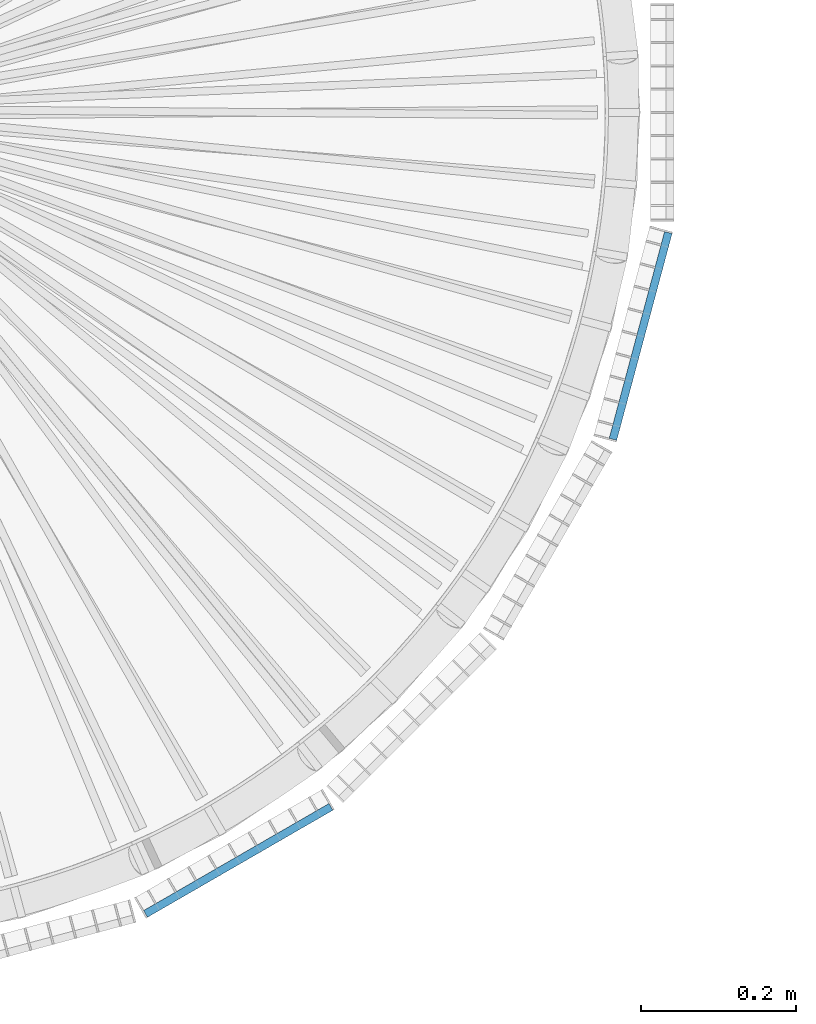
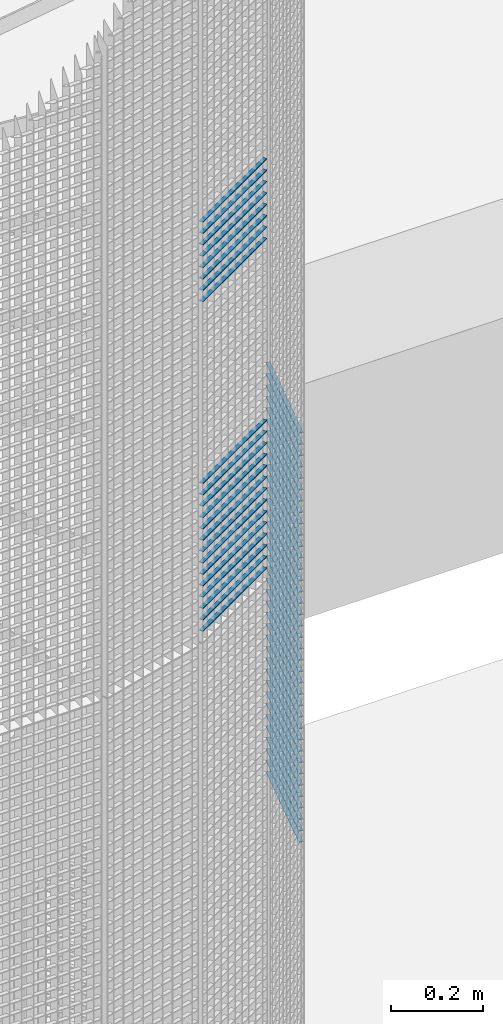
# One storey, part 243 of 1183: 59 beams, 2 elements without a shape of their own.
"""IFC2X3 building model written with IfcOpenShell, lengths in millimetres."""

import ifcopenshell
import ifcopenshell.guid

model = None  # the IFC model being written
_history = None  # IfcOwnerHistory: only IFC2X3 demands one
_inside = {}  # id of a spatial element -> (the spatial element, [elements in it])
_under = {}  # id of a project, library or spatial element -> (it, [spatial elements below it])
_declared = {}  # id of a project -> (the project, [libraries it declares])
_typed = {}  # id of a type object -> (the type object, [elements of that type])
_made_of = {}  # id of a material, layer set ... -> (it, [elements and type objects made of it])


def new_model(schema):
    """Start an empty IFC model of exactly this schema.

    Asked for "IFC4X3", IfcOpenShell would pick the latest addendum, in which some entities
    have other attributes; the version numbers below select the first issue.
    IFC2X3 requires an IfcOwnerHistory on every rooted entity: one is made here for all.
    """
    global model, _history
    if schema == "IFC4X3":
        model = ifcopenshell.file(schema_version=(4, 3, 0, 0))
    else:
        model = ifcopenshell.file(schema=schema)
    _inside.clear()
    _under.clear()
    _declared.clear()
    _typed.clear()
    _made_of.clear()
    _history = None
    if model.schema == "IFC2X3":
        org = make("IfcOrganization", Name="unknown")
        user = make(
            "IfcPersonAndOrganization",
            ThePerson=make("IfcPerson", FamilyName="unknown"),
            TheOrganization=org,
        )
        app = make(
            "IfcApplication",
            ApplicationDeveloper=org,
            Version="unknown",
            ApplicationFullName="unknown",
            ApplicationIdentifier="unknown",
        )
        _history = make(
            "IfcOwnerHistory",
            OwningUser=user,
            OwningApplication=app,
            ChangeAction="ADDED",
            CreationDate=0,
        )
    return model


def make(cls, **values):
    """One entity of the class cls with the attributes given. An attribute that is None is left unset."""
    return model.create_entity(
        cls, **{name: value for name, value in values.items() if value is not None}
    )


def rooted(cls, **values):
    """An entity with a GlobalId (a new one), such as an element, a storey or a relation."""
    return make(cls, GlobalId=ifcopenshell.guid.new(), OwnerHistory=_history, **values)


def si_unit(unit_type, name, prefix=None):
    """IfcSIUnit, for example si_unit("LENGTHUNIT", "METRE", prefix="MILLI")."""
    return make("IfcSIUnit", UnitType=unit_type, Prefix=prefix, Name=name)


def assignment(units):
    """IfcUnitAssignment: the units of a project."""
    return None if units is None else make("IfcUnitAssignment", Units=units)


def point(xyz):
    """IfcCartesianPoint."""
    return None if xyz is None else make("IfcCartesianPoint", Coordinates=xyz)


def direction(xyz):
    """IfcDirection."""
    return None if xyz is None else make("IfcDirection", DirectionRatios=xyz)


def frame(location, z_axis=None, x_axis=None):
    """IfcAxis2Placement3D, a coordinate frame: its origin and axes. An axis left out is left unset."""
    return make(
        "IfcAxis2Placement3D",
        Location=point(location),
        Axis=direction(z_axis),
        RefDirection=direction(x_axis),
    )


def frame_2d(location, x_axis=None):
    """IfcAxis2Placement2D, a coordinate frame in the plane: its origin and x axis."""
    return make(
        "IfcAxis2Placement2D", Location=point(location), RefDirection=direction(x_axis)
    )


def origin_with_axes():
    """The frame at (0, 0, 0) with the z axis (0, 0, 1) and the x axis (1, 0, 0) written out."""
    return frame((0.0, 0.0, 0.0), z_axis=(0.0, 0.0, 1.0), x_axis=(1.0, 0.0, 0.0))


def origin_2d_with_axis():
    """The frame at (0, 0) in the plane with the x axis (1, 0) written out."""
    return frame_2d((0.0, 0.0), x_axis=(1.0, 0.0))


def place(relative_to, where):
    """IfcLocalPlacement: puts the frame where relative to a parent placement (None: the world)."""
    return make(
        "IfcLocalPlacement", PlacementRelTo=relative_to, RelativePlacement=where
    )


def context(
    kind, dimensions, precision=None, world=None, true_north=None, identifier=None
):
    """IfcGeometricRepresentationContext, for example the 3D "Model" context."""
    return make(
        "IfcGeometricRepresentationContext",
        ContextIdentifier=identifier,
        ContextType=kind,
        CoordinateSpaceDimension=dimensions,
        Precision=precision,
        WorldCoordinateSystem=world,
        TrueNorth=true_north,
    )


def subcontext(parent, identifier, kind, view, scale=None):
    """IfcGeometricRepresentationSubContext, for example "Body" below "Model"."""
    return make(
        "IfcGeometricRepresentationSubContext",
        ContextIdentifier=identifier,
        ContextType=kind,
        ParentContext=parent,
        TargetScale=scale,
        TargetView=view,
    )


def project(units=None, contexts=None):
    """IfcProject with its units and contexts."""
    return rooted(
        "IfcProject",
        Name="project",
        RepresentationContexts=contexts,
        UnitsInContext=assignment(units),
    )


def spatial(cls, under=None, at=None, **own):
    """A site, building, storey or space (cls), placed at a placement, below another one or the project."""
    s = rooted(cls, ObjectPlacement=at, **own)
    if under is not None:
        _under.setdefault(under.id(), (under, []))[1].append(s)
    return s


def profile(cls, at=None, kind="AREA", **sizes):
    """A parametric profile (cls). Its sizes go by their IFC names, for example OverallWidth=200.0."""
    return make(cls, ProfileType=kind, Position=at, **sizes)


def rectangle(**sizes):
    """IfcRectangleProfileDef."""
    return profile("IfcRectangleProfileDef", **sizes)


def extrude(swept, where, along, depth):
    """IfcExtrudedAreaSolid: the profile swept, set in the frame where, extruded along a direction by depth."""
    return make(
        "IfcExtrudedAreaSolid",
        SweptArea=swept,
        Position=where,
        ExtrudedDirection=direction(along),
        Depth=depth,
    )


def shape(context_of_items, identifier, shape_type, items):
    """IfcShapeRepresentation: the items that make up one representation, for example the "Body"."""
    return make(
        "IfcShapeRepresentation",
        ContextOfItems=context_of_items,
        RepresentationIdentifier=identifier,
        RepresentationType=shape_type,
        Items=items,
    )


def material(Name=None, Category=None):
    """IfcMaterial."""
    return make("IfcMaterial", Name=Name, Category=Category)


def made_of(thing, what):
    """Note that an element or type object is made of a material, layer set ...; save() writes the relation."""
    if what is not None:
        _made_of.setdefault(what.id(), (what, []))[1].append(thing)
    return thing


def type_object(cls, material=None, **own):
    """A type object (cls), such as IfcWallType, which elements share."""
    return made_of(rooted(cls, **own), material)


def element(
    cls,
    number,
    at=None,
    inside=None,
    cuts=None,
    type_object=None,
    material=None,
    context=None,
    identifier="Body",
    shape_type=None,
    held_by="IfcProductDefinitionShape",
    body=None,
    shapes=None,
    **own,
):
    """One element of the class cls, such as IfcWall. Its Tag is "e" and its number.

    at: its placement. inside: the storey or other place that contains it. cuts: it is an
    opening in that element (IfcRelVoidsElement). A single representation is given by context,
    identifier, shape_type and body (its items); several are given by shapes. held_by: the class
    of the entity that holds the representations. save() writes the other relations.
    """
    e = rooted(cls, Tag="e%d" % number, ObjectPlacement=at, **own)
    if body is not None:
        shapes = [shape(context, identifier, shape_type, body)]
    if shapes is not None:
        e.Representation = make(held_by, Representations=shapes)
    if inside is not None:
        _inside.setdefault(inside.id(), (inside, []))[1].append(e)
    if cuts is not None:
        rooted(
            "IfcRelVoidsElement", RelatingBuildingElement=cuts, RelatedOpeningElement=e
        )
    if type_object is not None:
        _typed.setdefault(type_object.id(), (type_object, []))[1].append(e)
    return made_of(e, material)


def aggregate(whole, parts):
    """IfcRelAggregates: a whole, such as a stair, and the parts it consists of."""
    return rooted("IfcRelAggregates", RelatingObject=whole, RelatedObjects=parts)


def save(model, path):
    """Write the relations noted so far, then the file.

    IfcRelAggregates (storeys below a building ...), IfcRelContainedInSpatialStructure (elements
    in a storey), IfcRelDefinesByType, IfcRelAssociatesMaterial and IfcRelDeclares: one each for
    every whole, place, type object, material and project.
    """
    for whole, parts in _under.values():
        aggregate(whole, parts)
    for where, things in _inside.values():
        rooted(
            "IfcRelContainedInSpatialStructure",
            RelatedElements=things,
            RelatingStructure=where,
        )
    for kind, things in _typed.values():
        rooted("IfcRelDefinesByType", RelatedObjects=things, RelatingType=kind)
    for what, things in _made_of.values():
        rooted("IfcRelAssociatesMaterial", RelatedObjects=things, RelatingMaterial=what)
    for by, libraries in _declared.values():
        rooted("IfcRelDeclares", RelatingContext=by, RelatedDefinitions=libraries)
    model.write(path)


model = new_model("IFC2X3")

# Units and contexts
model_context = context("Model", 3, precision=1e-05, world=origin_with_axes())
body_context = subcontext(model_context, "Body", "Model", "MODEL_VIEW")
ifc_project = project(units=[si_unit("LENGTHUNIT", "METRE", prefix="MILLI"), si_unit("AREAUNIT", "SQUARE_METRE"), si_unit("VOLUMEUNIT", "CUBIC_METRE"), si_unit("MASSUNIT", "GRAM", prefix="KILO"), si_unit("TIMEUNIT", "SECOND"), si_unit("PLANEANGLEUNIT", "RADIAN"), si_unit("SOLIDANGLEUNIT", "STERADIAN"), si_unit("THERMODYNAMICTEMPERATUREUNIT", "DEGREE_CELSIUS"), si_unit("LUMINOUSINTENSITYUNIT", "LUMEN")], contexts=[model_context])

# Site, building, storey
site_placement = place(None, origin_with_axes())
site = spatial("IfcSite", under=ifc_project, at=site_placement, Name="Undefined", CompositionType="ELEMENT")
building_placement = place(site_placement, origin_with_axes())
building = spatial("IfcBuilding", under=site, at=building_placement, Name="Undefined", CompositionType="ELEMENT")
storey_placement = place(building_placement, origin_with_axes())
storey = spatial("IfcBuildingStorey", under=building, at=storey_placement, Name="Undefined", CompositionType="ELEMENT", Elevation=0.0)

# Assembly, beams
assembly_1_placement = place(storey_placement, origin_with_axes())
assembly_1 = element("IfcElementAssembly", 1, at=assembly_1_placement, inside=storey, Name="BORDURE", AssemblyPlace="NOTDEFINED", PredefinedType="NOTDEFINED")
ifc_material = material(Name="STEEL/S235JR")
beam_type = type_object("IfcBeamType", Name="PL2*10", PredefinedType="NOTDEFINED")
beam_1_placement = place(assembly_1_placement, frame((437.231955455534, -1033.29996828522, 12420.0), z_axis=(0.499999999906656, -0.866025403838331, 0.0), x_axis=(0.866025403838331, 0.499999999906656, 0.0)))
beam_1 = element("IfcBeam", 2, at=beam_1_placement, type_object=beam_type, material=ifc_material, Name="ENTRETOISE", context=body_context, shape_type="SweptSolid", body=[
    extrude(rectangle(XDim=2.0, YDim=10.0, at=origin_2d_with_axis()), frame((275.999999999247, 9.09494701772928e-13, 1.53210777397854e-14), z_axis=(-1.0, 0.0, 0.0), x_axis=(0.0, -1.0, 0.0)), (0.0, 0.0, 1.0), 276.0),
])
beam_2_placement = place(assembly_1_placement, frame((437.231955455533, -1033.29996828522, 12900.0), z_axis=(0.499999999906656, -0.866025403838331, 0.0), x_axis=(0.866025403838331, 0.499999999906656, 0.0)))
beam_2 = element("IfcBeam", 3, at=beam_2_placement, type_object=beam_type, material=ifc_material, Name="ENTRETOISE", context=body_context, shape_type="SweptSolid", body=[
    extrude(rectangle(XDim=2.0, YDim=10.0, at=origin_2d_with_axis()), frame((275.999999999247, 9.09494701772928e-13, 1.53210777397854e-14), z_axis=(-1.0, 0.0, 0.0), x_axis=(0.0, -1.0, 0.0)), (0.0, 0.0, 1.0), 276.0),
])
beam_3_placement = place(assembly_1_placement, frame((437.231955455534, -1033.29996828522, 12390.0), z_axis=(0.499999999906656, -0.866025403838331, 0.0), x_axis=(0.866025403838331, 0.499999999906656, 0.0)))
beam_3 = element("IfcBeam", 4, at=beam_3_placement, type_object=beam_type, material=ifc_material, Name="ENTRETOISE", context=body_context, shape_type="SweptSolid", body=[
    extrude(rectangle(XDim=2.0, YDim=10.0, at=origin_2d_with_axis()), frame((275.999999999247, 9.09494701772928e-13, 1.53210777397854e-14), z_axis=(-1.0, 0.0, 0.0), x_axis=(0.0, -1.0, 0.0)), (0.0, 0.0, 1.0), 276.0),
])
beam_4_placement = place(assembly_1_placement, frame((437.231955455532, -1033.29996828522, 12930.0), z_axis=(0.499999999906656, -0.866025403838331, 0.0), x_axis=(0.866025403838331, 0.499999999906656, 0.0)))
beam_4 = element("IfcBeam", 5, at=beam_4_placement, type_object=beam_type, material=ifc_material, Name="ENTRETOISE", context=body_context, shape_type="SweptSolid", body=[
    extrude(rectangle(XDim=2.0, YDim=10.0, at=origin_2d_with_axis()), frame((275.999999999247, 9.09494701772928e-13, 1.53210777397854e-14), z_axis=(-1.0, 0.0, 0.0), x_axis=(0.0, -1.0, 0.0)), (0.0, 0.0, 1.0), 276.0),
])
beam_5_placement = place(assembly_1_placement, frame((437.231955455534, -1033.29996828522, 12360.0), z_axis=(0.499999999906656, -0.866025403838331, 0.0), x_axis=(0.866025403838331, 0.499999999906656, 0.0)))
beam_5 = element("IfcBeam", 6, at=beam_5_placement, type_object=beam_type, material=ifc_material, Name="ENTRETOISE", context=body_context, shape_type="SweptSolid", body=[
    extrude(rectangle(XDim=2.0, YDim=10.0, at=origin_2d_with_axis()), frame((275.999999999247, 9.09494701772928e-13, 1.53210777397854e-14), z_axis=(-1.0, 0.0, 0.0), x_axis=(0.0, -1.0, 0.0)), (0.0, 0.0, 1.0), 276.0),
])
beam_6_placement = place(assembly_1_placement, frame((437.231955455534, -1033.29996828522, 12330.0), z_axis=(0.499999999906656, -0.866025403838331, 0.0), x_axis=(0.866025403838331, 0.499999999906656, 0.0)))
beam_6 = element("IfcBeam", 7, at=beam_6_placement, type_object=beam_type, material=ifc_material, Name="ENTRETOISE", context=body_context, shape_type="SweptSolid", body=[
    extrude(rectangle(XDim=2.0, YDim=10.0, at=origin_2d_with_axis()), frame((275.999999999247, 9.09494701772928e-13, 1.53210777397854e-14), z_axis=(-1.0, 0.0, 0.0), x_axis=(0.0, -1.0, 0.0)), (0.0, 0.0, 1.0), 276.0),
])
beam_7_placement = place(assembly_1_placement, frame((437.231955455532, -1033.29996828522, 12960.0), z_axis=(0.499999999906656, -0.866025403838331, 0.0), x_axis=(0.866025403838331, 0.499999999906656, 0.0)))
beam_7 = element("IfcBeam", 8, at=beam_7_placement, type_object=beam_type, material=ifc_material, Name="ENTRETOISE", context=body_context, shape_type="SweptSolid", body=[
    extrude(rectangle(XDim=2.0, YDim=10.0, at=origin_2d_with_axis()), frame((275.999999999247, 9.09494701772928e-13, 1.53210777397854e-14), z_axis=(-1.0, 0.0, 0.0), x_axis=(0.0, -1.0, 0.0)), (0.0, 0.0, 1.0), 276.0),
])
beam_8_placement = place(assembly_1_placement, frame((437.231955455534, -1033.29996828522, 12300.0), z_axis=(0.499999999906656, -0.866025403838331, 0.0), x_axis=(0.866025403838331, 0.499999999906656, 0.0)))
beam_8 = element("IfcBeam", 9, at=beam_8_placement, type_object=beam_type, material=ifc_material, Name="ENTRETOISE", context=body_context, shape_type="SweptSolid", body=[
    extrude(rectangle(XDim=2.0, YDim=10.0, at=origin_2d_with_axis()), frame((275.999999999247, 9.09494701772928e-13, 1.53210777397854e-14), z_axis=(-1.0, 0.0, 0.0), x_axis=(0.0, -1.0, 0.0)), (0.0, 0.0, 1.0), 276.0),
])
beam_9_placement = place(assembly_1_placement, frame((437.231955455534, -1033.29996828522, 12270.0), z_axis=(0.499999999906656, -0.866025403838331, 0.0), x_axis=(0.866025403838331, 0.499999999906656, 0.0)))
beam_9 = element("IfcBeam", 10, at=beam_9_placement, type_object=beam_type, material=ifc_material, Name="ENTRETOISE", context=body_context, shape_type="SweptSolid", body=[
    extrude(rectangle(XDim=2.0, YDim=10.0, at=origin_2d_with_axis()), frame((275.999999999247, 9.09494701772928e-13, 1.53210777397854e-14), z_axis=(-1.0, 0.0, 0.0), x_axis=(0.0, -1.0, 0.0)), (0.0, 0.0, 1.0), 276.0),
])
beam_10_placement = place(assembly_1_placement, frame((437.231955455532, -1033.29996828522, 12990.0), z_axis=(0.499999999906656, -0.866025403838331, 0.0), x_axis=(0.866025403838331, 0.499999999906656, 0.0)))
beam_10 = element("IfcBeam", 11, at=beam_10_placement, type_object=beam_type, material=ifc_material, Name="ENTRETOISE", context=body_context, shape_type="SweptSolid", body=[
    extrude(rectangle(XDim=2.0, YDim=10.0, at=origin_2d_with_axis()), frame((275.999999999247, 9.09494701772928e-13, 1.53210777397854e-14), z_axis=(-1.0, 0.0, 0.0), x_axis=(0.0, -1.0, 0.0)), (0.0, 0.0, 1.0), 276.0),
])
beam_11_placement = place(assembly_1_placement, frame((437.231955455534, -1033.29996828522, 12240.0), z_axis=(0.499999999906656, -0.866025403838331, 0.0), x_axis=(0.866025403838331, 0.499999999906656, 0.0)))
beam_11 = element("IfcBeam", 12, at=beam_11_placement, type_object=beam_type, material=ifc_material, Name="ENTRETOISE", context=body_context, shape_type="SweptSolid", body=[
    extrude(rectangle(XDim=2.0, YDim=10.0, at=origin_2d_with_axis()), frame((275.999999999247, 9.09494701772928e-13, 1.53210777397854e-14), z_axis=(-1.0, 0.0, 0.0), x_axis=(0.0, -1.0, 0.0)), (0.0, 0.0, 1.0), 276.0),
])
beam_12_placement = place(assembly_1_placement, frame((437.231955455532, -1033.29996828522, 13020.0), z_axis=(0.499999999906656, -0.866025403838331, 0.0), x_axis=(0.866025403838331, 0.499999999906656, 0.0)))
beam_12 = element("IfcBeam", 13, at=beam_12_placement, type_object=beam_type, material=ifc_material, Name="ENTRETOISE", context=body_context, shape_type="SweptSolid", body=[
    extrude(rectangle(XDim=2.0, YDim=10.0, at=origin_2d_with_axis()), frame((275.999999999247, 9.09494701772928e-13, 1.53210777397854e-14), z_axis=(-1.0, 0.0, 0.0), x_axis=(0.0, -1.0, 0.0)), (0.0, 0.0, 1.0), 276.0),
])
beam_13_placement = place(assembly_1_placement, frame((437.231955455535, -1033.29996828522, 12210.0), z_axis=(0.499999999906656, -0.866025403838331, 0.0), x_axis=(0.866025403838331, 0.499999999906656, 0.0)))
beam_13 = element("IfcBeam", 14, at=beam_13_placement, type_object=beam_type, material=ifc_material, Name="ENTRETOISE", context=body_context, shape_type="SweptSolid", body=[
    extrude(rectangle(XDim=2.0, YDim=10.0, at=origin_2d_with_axis()), frame((275.999999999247, 9.09494701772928e-13, 1.53210777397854e-14), z_axis=(-1.0, 0.0, 0.0), x_axis=(0.0, -1.0, 0.0)), (0.0, 0.0, 1.0), 276.0),
])
beam_14_placement = place(assembly_1_placement, frame((437.231955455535, -1033.29996828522, 12180.0), z_axis=(0.499999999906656, -0.866025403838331, 0.0), x_axis=(0.866025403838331, 0.499999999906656, 0.0)))
beam_14 = element("IfcBeam", 15, at=beam_14_placement, type_object=beam_type, material=ifc_material, Name="ENTRETOISE", context=body_context, shape_type="SweptSolid", body=[
    extrude(rectangle(XDim=2.0, YDim=10.0, at=origin_2d_with_axis()), frame((275.999999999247, 9.09494701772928e-13, 1.53210777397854e-14), z_axis=(-1.0, 0.0, 0.0), x_axis=(0.0, -1.0, 0.0)), (0.0, 0.0, 1.0), 276.0),
])
beam_15_placement = place(assembly_1_placement, frame((437.231955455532, -1033.29996828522, 13050.0), z_axis=(0.499999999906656, -0.866025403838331, 0.0), x_axis=(0.866025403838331, 0.499999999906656, 0.0)))
beam_15 = element("IfcBeam", 16, at=beam_15_placement, type_object=beam_type, material=ifc_material, Name="ENTRETOISE", context=body_context, shape_type="SweptSolid", body=[
    extrude(rectangle(XDim=2.0, YDim=10.0, at=origin_2d_with_axis()), frame((275.999999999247, 9.09494701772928e-13, 1.53210777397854e-14), z_axis=(-1.0, 0.0, 0.0), x_axis=(0.0, -1.0, 0.0)), (0.0, 0.0, 1.0), 276.0),
])
beam_16_placement = place(assembly_1_placement, frame((437.231955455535, -1033.29996828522, 12150.0), z_axis=(0.499999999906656, -0.866025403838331, 0.0), x_axis=(0.866025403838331, 0.499999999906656, 0.0)))
beam_16 = element("IfcBeam", 17, at=beam_16_placement, type_object=beam_type, material=ifc_material, Name="ENTRETOISE", context=body_context, shape_type="SweptSolid", body=[
    extrude(rectangle(XDim=2.0, YDim=10.0, at=origin_2d_with_axis()), frame((275.999999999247, 9.09494701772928e-13, 1.53210777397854e-14), z_axis=(-1.0, 0.0, 0.0), x_axis=(0.0, -1.0, 0.0)), (0.0, 0.0, 1.0), 276.0),
])
beam_17_placement = place(assembly_1_placement, frame((437.231955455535, -1033.29996828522, 12120.0), z_axis=(0.499999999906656, -0.866025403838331, 0.0), x_axis=(0.866025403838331, 0.499999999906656, 0.0)))
beam_17 = element("IfcBeam", 18, at=beam_17_placement, type_object=beam_type, material=ifc_material, Name="ENTRETOISE", context=body_context, shape_type="SweptSolid", body=[
    extrude(rectangle(XDim=2.0, YDim=10.0, at=origin_2d_with_axis()), frame((275.999999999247, 9.09494701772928e-13, 1.53210777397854e-14), z_axis=(-1.0, 0.0, 0.0), x_axis=(0.0, -1.0, 0.0)), (0.0, 0.0, 1.0), 276.0),
])
beam_18_placement = place(assembly_1_placement, frame((437.231955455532, -1033.29996828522, 13080.0), z_axis=(0.499999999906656, -0.866025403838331, 0.0), x_axis=(0.866025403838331, 0.499999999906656, 0.0)))
beam_18 = element("IfcBeam", 19, at=beam_18_placement, type_object=beam_type, material=ifc_material, Name="ENTRETOISE", context=body_context, shape_type="SweptSolid", body=[
    extrude(rectangle(XDim=2.0, YDim=10.0, at=origin_2d_with_axis()), frame((275.999999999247, 9.09494701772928e-13, 1.53210777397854e-14), z_axis=(-1.0, 0.0, 0.0), x_axis=(0.0, -1.0, 0.0)), (0.0, 0.0, 1.0), 276.0),
])
beam_19_placement = place(assembly_1_placement, frame((437.231955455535, -1033.29996828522, 12090.0), z_axis=(0.499999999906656, -0.866025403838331, 0.0), x_axis=(0.866025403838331, 0.499999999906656, 0.0)))
beam_19 = element("IfcBeam", 20, at=beam_19_placement, type_object=beam_type, material=ifc_material, Name="ENTRETOISE", context=body_context, shape_type="SweptSolid", body=[
    extrude(rectangle(XDim=2.0, YDim=10.0, at=origin_2d_with_axis()), frame((275.999999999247, 9.09494701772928e-13, 1.53210777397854e-14), z_axis=(-1.0, 0.0, 0.0), x_axis=(0.0, -1.0, 0.0)), (0.0, 0.0, 1.0), 276.0),
])
beam_20_placement = place(assembly_1_placement, frame((437.231955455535, -1033.29996828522, 12060.0), z_axis=(0.499999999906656, -0.866025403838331, 0.0), x_axis=(0.866025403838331, 0.499999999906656, 0.0)))
beam_20 = element("IfcBeam", 21, at=beam_20_placement, type_object=beam_type, material=ifc_material, Name="ENTRETOISE", context=body_context, shape_type="SweptSolid", body=[
    extrude(rectangle(XDim=2.0, YDim=10.0, at=origin_2d_with_axis()), frame((275.999999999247, 9.09494701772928e-13, 1.53210777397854e-14), z_axis=(-1.0, 0.0, 0.0), x_axis=(0.0, -1.0, 0.0)), (0.0, 0.0, 1.0), 276.0),
])
beam_21_placement = place(assembly_1_placement, frame((437.231955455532, -1033.29996828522, 13110.0), z_axis=(0.499999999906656, -0.866025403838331, 0.0), x_axis=(0.866025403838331, 0.499999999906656, 0.0)))
beam_21 = element("IfcBeam", 22, at=beam_21_placement, type_object=beam_type, material=ifc_material, Name="ENTRETOISE", context=body_context, shape_type="SweptSolid", body=[
    extrude(rectangle(XDim=2.0, YDim=10.0, at=origin_2d_with_axis()), frame((275.999999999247, 9.09494701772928e-13, 1.53210777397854e-14), z_axis=(-1.0, 0.0, 0.0), x_axis=(0.0, -1.0, 0.0)), (0.0, 0.0, 1.0), 276.0),
])
beam_22_placement = place(assembly_1_placement, frame((437.231955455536, -1033.29996828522, 12030.0), z_axis=(0.499999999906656, -0.866025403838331, 0.0), x_axis=(0.866025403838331, 0.499999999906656, 0.0)))
beam_22 = element("IfcBeam", 23, at=beam_22_placement, type_object=beam_type, material=ifc_material, Name="ENTRETOISE", context=body_context, shape_type="SweptSolid", body=[
    extrude(rectangle(XDim=2.0, YDim=10.0, at=origin_2d_with_axis()), frame((275.999999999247, 9.09494701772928e-13, 1.53210777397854e-14), z_axis=(-1.0, 0.0, 0.0), x_axis=(0.0, -1.0, 0.0)), (0.0, 0.0, 1.0), 276.0),
])
aggregate(assembly_1, [beam_1, beam_2, beam_3, beam_4, beam_5, beam_6, beam_7, beam_8, beam_9, beam_10, beam_11, beam_12, beam_13, beam_14, beam_15, beam_16, beam_17, beam_18, beam_19, beam_20, beam_21, beam_22])

assembly_2_placement = place(storey_placement, origin_with_axes())
assembly_2 = element("IfcElementAssembly", 24, at=assembly_2_placement, inside=storey, Name="BORDURE", AssemblyPlace="NOTDEFINED", PredefinedType="NOTDEFINED")
beam_23_placement = place(assembly_2_placement, frame((1039.82309522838, -421.483733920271, 11970.0), z_axis=(0.965925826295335, -0.258819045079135, 0.0), x_axis=(0.258819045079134, 0.965925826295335, 0.0)))
beam_23 = element("IfcBeam", 25, at=beam_23_placement, type_object=beam_type, material=ifc_material, Name="ENTRETOISE", context=body_context, shape_type="SweptSolid", body=[
    extrude(rectangle(XDim=2.0, YDim=10.0, at=origin_2d_with_axis()), frame((275.999999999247, 9.09494701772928e-13, 1.53210777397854e-14), z_axis=(-1.0, 0.0, 0.0), x_axis=(0.0, -1.0, 0.0)), (0.0, 0.0, 1.0), 276.0),
])
beam_24_placement = place(assembly_2_placement, frame((1039.82309522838, -421.483733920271, 11940.0), z_axis=(0.965925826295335, -0.258819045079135, 0.0), x_axis=(0.258819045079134, 0.965925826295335, 0.0)))
beam_24 = element("IfcBeam", 26, at=beam_24_placement, type_object=beam_type, material=ifc_material, Name="ENTRETOISE", context=body_context, shape_type="SweptSolid", body=[
    extrude(rectangle(XDim=2.0, YDim=10.0, at=origin_2d_with_axis()), frame((275.999999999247, 9.09494701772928e-13, 1.53210777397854e-14), z_axis=(-1.0, 0.0, 0.0), x_axis=(0.0, -1.0, 0.0)), (0.0, 0.0, 1.0), 276.0),
])
beam_25_placement = place(assembly_2_placement, frame((1039.82309522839, -421.483733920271, 11910.0), z_axis=(0.965925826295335, -0.258819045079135, 0.0), x_axis=(0.258819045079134, 0.965925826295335, 0.0)))
beam_25 = element("IfcBeam", 27, at=beam_25_placement, type_object=beam_type, material=ifc_material, Name="ENTRETOISE", context=body_context, shape_type="SweptSolid", body=[
    extrude(rectangle(XDim=2.0, YDim=10.0, at=origin_2d_with_axis()), frame((275.999999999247, 9.09494701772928e-13, 1.53210777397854e-14), z_axis=(-1.0, 0.0, 0.0), x_axis=(0.0, -1.0, 0.0)), (0.0, 0.0, 1.0), 276.0),
])
beam_26_placement = place(assembly_2_placement, frame((1039.82309522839, -421.483733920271, 11880.0), z_axis=(0.965925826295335, -0.258819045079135, 0.0), x_axis=(0.258819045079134, 0.965925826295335, 0.0)))
beam_26 = element("IfcBeam", 28, at=beam_26_placement, type_object=beam_type, material=ifc_material, Name="ENTRETOISE", context=body_context, shape_type="SweptSolid", body=[
    extrude(rectangle(XDim=2.0, YDim=10.0, at=origin_2d_with_axis()), frame((275.999999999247, 9.09494701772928e-13, 1.53210777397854e-14), z_axis=(-1.0, 0.0, 0.0), x_axis=(0.0, -1.0, 0.0)), (0.0, 0.0, 1.0), 276.0),
])
beam_27_placement = place(assembly_2_placement, frame((1039.82309522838, -421.483733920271, 11850.0), z_axis=(0.965925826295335, -0.258819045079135, 0.0), x_axis=(0.258819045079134, 0.965925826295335, 0.0)))
beam_27 = element("IfcBeam", 29, at=beam_27_placement, type_object=beam_type, material=ifc_material, Name="ENTRETOISE", context=body_context, shape_type="SweptSolid", body=[
    extrude(rectangle(XDim=2.0, YDim=10.0, at=origin_2d_with_axis()), frame((275.999999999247, 9.09494701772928e-13, 1.53210777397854e-14), z_axis=(-1.0, 0.0, 0.0), x_axis=(0.0, -1.0, 0.0)), (0.0, 0.0, 1.0), 276.0),
])
beam_28_placement = place(assembly_2_placement, frame((1039.82309522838, -421.483733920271, 11820.0), z_axis=(0.965925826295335, -0.258819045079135, 0.0), x_axis=(0.258819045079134, 0.965925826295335, 0.0)))
beam_28 = element("IfcBeam", 30, at=beam_28_placement, type_object=beam_type, material=ifc_material, Name="ENTRETOISE", context=body_context, shape_type="SweptSolid", body=[
    extrude(rectangle(XDim=2.0, YDim=10.0, at=origin_2d_with_axis()), frame((275.999999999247, 9.09494701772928e-13, 1.53210777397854e-14), z_axis=(-1.0, 0.0, 0.0), x_axis=(0.0, -1.0, 0.0)), (0.0, 0.0, 1.0), 276.0),
])
beam_29_placement = place(assembly_2_placement, frame((1039.82309522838, -421.483733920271, 11790.0), z_axis=(0.965925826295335, -0.258819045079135, 0.0), x_axis=(0.258819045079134, 0.965925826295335, 0.0)))
beam_29 = element("IfcBeam", 31, at=beam_29_placement, type_object=beam_type, material=ifc_material, Name="ENTRETOISE", context=body_context, shape_type="SweptSolid", body=[
    extrude(rectangle(XDim=2.0, YDim=10.0, at=origin_2d_with_axis()), frame((275.999999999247, 9.09494701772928e-13, 1.53210777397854e-14), z_axis=(-1.0, 0.0, 0.0), x_axis=(0.0, -1.0, 0.0)), (0.0, 0.0, 1.0), 276.0),
])
beam_30_placement = place(assembly_2_placement, frame((1039.82309522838, -421.483733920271, 11760.0), z_axis=(0.965925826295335, -0.258819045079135, 0.0), x_axis=(0.258819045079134, 0.965925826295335, 0.0)))
beam_30 = element("IfcBeam", 32, at=beam_30_placement, type_object=beam_type, material=ifc_material, Name="ENTRETOISE", context=body_context, shape_type="SweptSolid", body=[
    extrude(rectangle(XDim=2.0, YDim=10.0, at=origin_2d_with_axis()), frame((275.999999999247, 9.09494701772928e-13, 1.53210777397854e-14), z_axis=(-1.0, 0.0, 0.0), x_axis=(0.0, -1.0, 0.0)), (0.0, 0.0, 1.0), 276.0),
])
beam_31_placement = place(assembly_2_placement, frame((1039.82309522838, -421.48373392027, 11730.0), z_axis=(0.965925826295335, -0.258819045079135, 0.0), x_axis=(0.258819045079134, 0.965925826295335, 0.0)))
beam_31 = element("IfcBeam", 33, at=beam_31_placement, type_object=beam_type, material=ifc_material, Name="ENTRETOISE", context=body_context, shape_type="SweptSolid", body=[
    extrude(rectangle(XDim=2.0, YDim=10.0, at=origin_2d_with_axis()), frame((275.999999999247, 9.09494701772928e-13, 1.53210777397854e-14), z_axis=(-1.0, 0.0, 0.0), x_axis=(0.0, -1.0, 0.0)), (0.0, 0.0, 1.0), 276.0),
])
beam_32_placement = place(assembly_2_placement, frame((1039.82309522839, -421.48373392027, 11700.0), z_axis=(0.965925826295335, -0.258819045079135, 0.0), x_axis=(0.258819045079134, 0.965925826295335, 0.0)))
beam_32 = element("IfcBeam", 34, at=beam_32_placement, type_object=beam_type, material=ifc_material, Name="ENTRETOISE", context=body_context, shape_type="SweptSolid", body=[
    extrude(rectangle(XDim=2.0, YDim=10.0, at=origin_2d_with_axis()), frame((275.999999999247, 9.09494701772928e-13, 1.53210777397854e-14), z_axis=(-1.0, 0.0, 0.0), x_axis=(0.0, -1.0, 0.0)), (0.0, 0.0, 1.0), 276.0),
])
beam_33_placement = place(assembly_2_placement, frame((1039.82309522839, -421.48373392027, 11670.0), z_axis=(0.965925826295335, -0.258819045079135, 0.0), x_axis=(0.258819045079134, 0.965925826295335, 0.0)))
beam_33 = element("IfcBeam", 35, at=beam_33_placement, type_object=beam_type, material=ifc_material, Name="ENTRETOISE", context=body_context, shape_type="SweptSolid", body=[
    extrude(rectangle(XDim=2.0, YDim=10.0, at=origin_2d_with_axis()), frame((275.999999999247, 9.09494701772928e-13, 1.53210777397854e-14), z_axis=(-1.0, 0.0, 0.0), x_axis=(0.0, -1.0, 0.0)), (0.0, 0.0, 1.0), 276.0),
])
beam_34_placement = place(assembly_2_placement, frame((1039.82309522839, -421.48373392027, 11640.0), z_axis=(0.965925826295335, -0.258819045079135, 0.0), x_axis=(0.258819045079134, 0.965925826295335, 0.0)))
beam_34 = element("IfcBeam", 36, at=beam_34_placement, type_object=beam_type, material=ifc_material, Name="ENTRETOISE", context=body_context, shape_type="SweptSolid", body=[
    extrude(rectangle(XDim=2.0, YDim=10.0, at=origin_2d_with_axis()), frame((275.999999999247, 9.09494701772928e-13, 1.53210777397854e-14), z_axis=(-1.0, 0.0, 0.0), x_axis=(0.0, -1.0, 0.0)), (0.0, 0.0, 1.0), 276.0),
])
beam_35_placement = place(assembly_2_placement, frame((1039.82309522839, -421.48373392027, 11610.0), z_axis=(0.965925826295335, -0.258819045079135, 0.0), x_axis=(0.258819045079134, 0.965925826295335, 0.0)))
beam_35 = element("IfcBeam", 37, at=beam_35_placement, type_object=beam_type, material=ifc_material, Name="ENTRETOISE", context=body_context, shape_type="SweptSolid", body=[
    extrude(rectangle(XDim=2.0, YDim=10.0, at=origin_2d_with_axis()), frame((275.999999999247, 9.09494701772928e-13, 1.53210777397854e-14), z_axis=(-1.0, 0.0, 0.0), x_axis=(0.0, -1.0, 0.0)), (0.0, 0.0, 1.0), 276.0),
])
beam_36_placement = place(assembly_2_placement, frame((1039.82309522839, -421.48373392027, 11580.0), z_axis=(0.965925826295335, -0.258819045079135, 0.0), x_axis=(0.258819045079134, 0.965925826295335, 0.0)))
beam_36 = element("IfcBeam", 38, at=beam_36_placement, type_object=beam_type, material=ifc_material, Name="ENTRETOISE", context=body_context, shape_type="SweptSolid", body=[
    extrude(rectangle(XDim=2.0, YDim=10.0, at=origin_2d_with_axis()), frame((275.999999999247, 9.09494701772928e-13, 1.53210777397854e-14), z_axis=(-1.0, 0.0, 0.0), x_axis=(0.0, -1.0, 0.0)), (0.0, 0.0, 1.0), 276.0),
])
beam_37_placement = place(assembly_2_placement, frame((1039.82309522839, -421.48373392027, 11550.0), z_axis=(0.965925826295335, -0.258819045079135, 0.0), x_axis=(0.258819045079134, 0.965925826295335, 0.0)))
beam_37 = element("IfcBeam", 39, at=beam_37_placement, type_object=beam_type, material=ifc_material, Name="ENTRETOISE", context=body_context, shape_type="SweptSolid", body=[
    extrude(rectangle(XDim=2.0, YDim=10.0, at=origin_2d_with_axis()), frame((275.999999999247, 9.09494701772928e-13, 1.53210777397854e-14), z_axis=(-1.0, 0.0, 0.0), x_axis=(0.0, -1.0, 0.0)), (0.0, 0.0, 1.0), 276.0),
])
beam_38_placement = place(assembly_2_placement, frame((1039.82309522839, -421.48373392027, 11520.0), z_axis=(0.965925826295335, -0.258819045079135, 0.0), x_axis=(0.258819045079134, 0.965925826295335, 0.0)))
beam_38 = element("IfcBeam", 40, at=beam_38_placement, type_object=beam_type, material=ifc_material, Name="ENTRETOISE", context=body_context, shape_type="SweptSolid", body=[
    extrude(rectangle(XDim=2.0, YDim=10.0, at=origin_2d_with_axis()), frame((275.999999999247, 9.09494701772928e-13, 1.53210777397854e-14), z_axis=(-1.0, 0.0, 0.0), x_axis=(0.0, -1.0, 0.0)), (0.0, 0.0, 1.0), 276.0),
])
beam_39_placement = place(assembly_2_placement, frame((1039.82309522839, -421.48373392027, 11490.0), z_axis=(0.965925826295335, -0.258819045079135, 0.0), x_axis=(0.258819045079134, 0.965925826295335, 0.0)))
beam_39 = element("IfcBeam", 41, at=beam_39_placement, type_object=beam_type, material=ifc_material, Name="ENTRETOISE", context=body_context, shape_type="SweptSolid", body=[
    extrude(rectangle(XDim=2.0, YDim=10.0, at=origin_2d_with_axis()), frame((275.999999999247, 9.09494701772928e-13, 1.53210777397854e-14), z_axis=(-1.0, 0.0, 0.0), x_axis=(0.0, -1.0, 0.0)), (0.0, 0.0, 1.0), 276.0),
])
beam_40_placement = place(assembly_2_placement, frame((1039.82309522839, -421.483733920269, 11460.0), z_axis=(0.965925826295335, -0.258819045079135, 0.0), x_axis=(0.258819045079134, 0.965925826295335, 0.0)))
beam_40 = element("IfcBeam", 42, at=beam_40_placement, type_object=beam_type, material=ifc_material, Name="ENTRETOISE", context=body_context, shape_type="SweptSolid", body=[
    extrude(rectangle(XDim=2.0, YDim=10.0, at=origin_2d_with_axis()), frame((275.999999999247, 9.09494701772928e-13, 1.53210777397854e-14), z_axis=(-1.0, 0.0, 0.0), x_axis=(0.0, -1.0, 0.0)), (0.0, 0.0, 1.0), 276.0),
])
beam_41_placement = place(assembly_2_placement, frame((1039.82309522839, -421.483733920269, 11430.0), z_axis=(0.965925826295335, -0.258819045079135, 0.0), x_axis=(0.258819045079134, 0.965925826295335, 0.0)))
beam_41 = element("IfcBeam", 43, at=beam_41_placement, type_object=beam_type, material=ifc_material, Name="ENTRETOISE", context=body_context, shape_type="SweptSolid", body=[
    extrude(rectangle(XDim=2.0, YDim=10.0, at=origin_2d_with_axis()), frame((275.999999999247, 9.09494701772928e-13, 1.53210777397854e-14), z_axis=(-1.0, 0.0, 0.0), x_axis=(0.0, -1.0, 0.0)), (0.0, 0.0, 1.0), 276.0),
])
beam_42_placement = place(assembly_2_placement, frame((1039.82309522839, -421.483733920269, 11400.0), z_axis=(0.965925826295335, -0.258819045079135, 0.0), x_axis=(0.258819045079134, 0.965925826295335, 0.0)))
beam_42 = element("IfcBeam", 44, at=beam_42_placement, type_object=beam_type, material=ifc_material, Name="ENTRETOISE", context=body_context, shape_type="SweptSolid", body=[
    extrude(rectangle(XDim=2.0, YDim=10.0, at=origin_2d_with_axis()), frame((275.999999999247, 9.09494701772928e-13, 1.53210777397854e-14), z_axis=(-1.0, 0.0, 0.0), x_axis=(0.0, -1.0, 0.0)), (0.0, 0.0, 1.0), 276.0),
])
beam_43_placement = place(assembly_2_placement, frame((1039.82309522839, -421.483733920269, 11370.0), z_axis=(0.965925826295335, -0.258819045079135, 0.0), x_axis=(0.258819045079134, 0.965925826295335, 0.0)))
beam_43 = element("IfcBeam", 45, at=beam_43_placement, type_object=beam_type, material=ifc_material, Name="ENTRETOISE", context=body_context, shape_type="SweptSolid", body=[
    extrude(rectangle(XDim=2.0, YDim=10.0, at=origin_2d_with_axis()), frame((275.999999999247, 9.09494701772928e-13, 1.53210777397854e-14), z_axis=(-1.0, 0.0, 0.0), x_axis=(0.0, -1.0, 0.0)), (0.0, 0.0, 1.0), 276.0),
])
beam_44_placement = place(assembly_2_placement, frame((1039.82309522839, -421.483733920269, 11340.0), z_axis=(0.965925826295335, -0.258819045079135, 0.0), x_axis=(0.258819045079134, 0.965925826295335, 0.0)))
beam_44 = element("IfcBeam", 46, at=beam_44_placement, type_object=beam_type, material=ifc_material, Name="ENTRETOISE", context=body_context, shape_type="SweptSolid", body=[
    extrude(rectangle(XDim=2.0, YDim=10.0, at=origin_2d_with_axis()), frame((275.999999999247, 9.09494701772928e-13, 1.53210777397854e-14), z_axis=(-1.0, 0.0, 0.0), x_axis=(0.0, -1.0, 0.0)), (0.0, 0.0, 1.0), 276.0),
])
beam_45_placement = place(assembly_2_placement, frame((1039.82309522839, -421.483733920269, 11310.0), z_axis=(0.965925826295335, -0.258819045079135, 0.0), x_axis=(0.258819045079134, 0.965925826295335, 0.0)))
beam_45 = element("IfcBeam", 47, at=beam_45_placement, type_object=beam_type, material=ifc_material, Name="ENTRETOISE", context=body_context, shape_type="SweptSolid", body=[
    extrude(rectangle(XDim=2.0, YDim=10.0, at=origin_2d_with_axis()), frame((275.999999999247, 9.09494701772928e-13, 1.53210777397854e-14), z_axis=(-1.0, 0.0, 0.0), x_axis=(0.0, -1.0, 0.0)), (0.0, 0.0, 1.0), 276.0),
])
beam_46_placement = place(assembly_2_placement, frame((1039.82309522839, -421.483733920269, 11280.0), z_axis=(0.965925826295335, -0.258819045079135, 0.0), x_axis=(0.258819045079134, 0.965925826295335, 0.0)))
beam_46 = element("IfcBeam", 48, at=beam_46_placement, type_object=beam_type, material=ifc_material, Name="ENTRETOISE", context=body_context, shape_type="SweptSolid", body=[
    extrude(rectangle(XDim=2.0, YDim=10.0, at=origin_2d_with_axis()), frame((275.999999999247, 9.09494701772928e-13, 1.53210777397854e-14), z_axis=(-1.0, 0.0, 0.0), x_axis=(0.0, -1.0, 0.0)), (0.0, 0.0, 1.0), 276.0),
])
beam_47_placement = place(assembly_2_placement, frame((1039.82309522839, -421.483733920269, 11250.0), z_axis=(0.965925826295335, -0.258819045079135, 0.0), x_axis=(0.258819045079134, 0.965925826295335, 0.0)))
beam_47 = element("IfcBeam", 49, at=beam_47_placement, type_object=beam_type, material=ifc_material, Name="ENTRETOISE", context=body_context, shape_type="SweptSolid", body=[
    extrude(rectangle(XDim=2.0, YDim=10.0, at=origin_2d_with_axis()), frame((275.999999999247, 9.09494701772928e-13, 1.53210777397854e-14), z_axis=(-1.0, 0.0, 0.0), x_axis=(0.0, -1.0, 0.0)), (0.0, 0.0, 1.0), 276.0),
])
beam_48_placement = place(assembly_2_placement, frame((1039.82309522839, -421.483733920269, 11220.0), z_axis=(0.965925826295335, -0.258819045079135, 0.0), x_axis=(0.258819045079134, 0.965925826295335, 0.0)))
beam_48 = element("IfcBeam", 50, at=beam_48_placement, type_object=beam_type, material=ifc_material, Name="ENTRETOISE", context=body_context, shape_type="SweptSolid", body=[
    extrude(rectangle(XDim=2.0, YDim=10.0, at=origin_2d_with_axis()), frame((275.999999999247, 9.09494701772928e-13, 1.53210777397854e-14), z_axis=(-1.0, 0.0, 0.0), x_axis=(0.0, -1.0, 0.0)), (0.0, 0.0, 1.0), 276.0),
])
beam_49_placement = place(assembly_2_placement, frame((1039.82309522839, -421.483733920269, 11190.0), z_axis=(0.965925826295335, -0.258819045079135, 0.0), x_axis=(0.258819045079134, 0.965925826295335, 0.0)))
beam_49 = element("IfcBeam", 51, at=beam_49_placement, type_object=beam_type, material=ifc_material, Name="ENTRETOISE", context=body_context, shape_type="SweptSolid", body=[
    extrude(rectangle(XDim=2.0, YDim=10.0, at=origin_2d_with_axis()), frame((275.999999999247, 9.09494701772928e-13, 1.53210777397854e-14), z_axis=(-1.0, 0.0, 0.0), x_axis=(0.0, -1.0, 0.0)), (0.0, 0.0, 1.0), 276.0),
])
beam_50_placement = place(assembly_2_placement, frame((1039.82309522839, -421.483733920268, 11160.0), z_axis=(0.965925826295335, -0.258819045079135, 0.0), x_axis=(0.258819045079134, 0.965925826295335, 0.0)))
beam_50 = element("IfcBeam", 52, at=beam_50_placement, type_object=beam_type, material=ifc_material, Name="ENTRETOISE", context=body_context, shape_type="SweptSolid", body=[
    extrude(rectangle(XDim=2.0, YDim=10.0, at=origin_2d_with_axis()), frame((275.999999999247, 9.09494701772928e-13, 1.53210777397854e-14), z_axis=(-1.0, 0.0, 0.0), x_axis=(0.0, -1.0, 0.0)), (0.0, 0.0, 1.0), 276.0),
])
beam_51_placement = place(assembly_2_placement, frame((1039.82309522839, -421.483733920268, 11130.0), z_axis=(0.965925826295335, -0.258819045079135, 0.0), x_axis=(0.258819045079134, 0.965925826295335, 0.0)))
beam_51 = element("IfcBeam", 53, at=beam_51_placement, type_object=beam_type, material=ifc_material, Name="ENTRETOISE", context=body_context, shape_type="SweptSolid", body=[
    extrude(rectangle(XDim=2.0, YDim=10.0, at=origin_2d_with_axis()), frame((275.999999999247, 9.09494701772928e-13, 1.53210777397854e-14), z_axis=(-1.0, 0.0, 0.0), x_axis=(0.0, -1.0, 0.0)), (0.0, 0.0, 1.0), 276.0),
])
beam_52_placement = place(assembly_2_placement, frame((1039.82309522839, -421.483733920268, 11100.0), z_axis=(0.965925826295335, -0.258819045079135, 0.0), x_axis=(0.258819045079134, 0.965925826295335, 0.0)))
beam_52 = element("IfcBeam", 54, at=beam_52_placement, type_object=beam_type, material=ifc_material, Name="ENTRETOISE", context=body_context, shape_type="SweptSolid", body=[
    extrude(rectangle(XDim=2.0, YDim=10.0, at=origin_2d_with_axis()), frame((275.999999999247, 9.09494701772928e-13, 1.53210777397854e-14), z_axis=(-1.0, 0.0, 0.0), x_axis=(0.0, -1.0, 0.0)), (0.0, 0.0, 1.0), 276.0),
])
beam_53_placement = place(assembly_2_placement, frame((1039.82309522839, -421.483733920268, 11070.0), z_axis=(0.965925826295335, -0.258819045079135, 0.0), x_axis=(0.258819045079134, 0.965925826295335, 0.0)))
beam_53 = element("IfcBeam", 55, at=beam_53_placement, type_object=beam_type, material=ifc_material, Name="ENTRETOISE", context=body_context, shape_type="SweptSolid", body=[
    extrude(rectangle(XDim=2.0, YDim=10.0, at=origin_2d_with_axis()), frame((275.999999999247, 9.09494701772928e-13, 1.53210777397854e-14), z_axis=(-1.0, 0.0, 0.0), x_axis=(0.0, -1.0, 0.0)), (0.0, 0.0, 1.0), 276.0),
])
beam_54_placement = place(assembly_2_placement, frame((1039.82309522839, -421.483733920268, 11040.0), z_axis=(0.965925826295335, -0.258819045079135, 0.0), x_axis=(0.258819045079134, 0.965925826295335, 0.0)))
beam_54 = element("IfcBeam", 56, at=beam_54_placement, type_object=beam_type, material=ifc_material, Name="ENTRETOISE", context=body_context, shape_type="SweptSolid", body=[
    extrude(rectangle(XDim=2.0, YDim=10.0, at=origin_2d_with_axis()), frame((275.999999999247, 9.09494701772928e-13, 1.53210777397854e-14), z_axis=(-1.0, 0.0, 0.0), x_axis=(0.0, -1.0, 0.0)), (0.0, 0.0, 1.0), 276.0),
])
beam_55_placement = place(assembly_2_placement, frame((1039.82309522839, -421.483733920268, 11010.0), z_axis=(0.965925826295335, -0.258819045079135, 0.0), x_axis=(0.258819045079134, 0.965925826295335, 0.0)))
beam_55 = element("IfcBeam", 57, at=beam_55_placement, type_object=beam_type, material=ifc_material, Name="ENTRETOISE", context=body_context, shape_type="SweptSolid", body=[
    extrude(rectangle(XDim=2.0, YDim=10.0, at=origin_2d_with_axis()), frame((275.999999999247, 9.09494701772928e-13, 1.53210777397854e-14), z_axis=(-1.0, 0.0, 0.0), x_axis=(0.0, -1.0, 0.0)), (0.0, 0.0, 1.0), 276.0),
])
beam_56_placement = place(assembly_2_placement, frame((1039.82309522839, -421.483733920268, 10980.0), z_axis=(0.965925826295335, -0.258819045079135, 0.0), x_axis=(0.258819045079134, 0.965925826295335, 0.0)))
beam_56 = element("IfcBeam", 58, at=beam_56_placement, type_object=beam_type, material=ifc_material, Name="ENTRETOISE", context=body_context, shape_type="SweptSolid", body=[
    extrude(rectangle(XDim=2.0, YDim=10.0, at=origin_2d_with_axis()), frame((275.999999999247, 9.09494701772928e-13, 1.53210777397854e-14), z_axis=(-1.0, 0.0, 0.0), x_axis=(0.0, -1.0, 0.0)), (0.0, 0.0, 1.0), 276.0),
])
beam_57_placement = place(assembly_2_placement, frame((1039.82309522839, -421.483733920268, 10950.0), z_axis=(0.965925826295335, -0.258819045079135, 0.0), x_axis=(0.258819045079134, 0.965925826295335, 0.0)))
beam_57 = element("IfcBeam", 59, at=beam_57_placement, type_object=beam_type, material=ifc_material, Name="ENTRETOISE", context=body_context, shape_type="SweptSolid", body=[
    extrude(rectangle(XDim=2.0, YDim=10.0, at=origin_2d_with_axis()), frame((275.999999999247, 9.09494701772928e-13, 1.53210777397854e-14), z_axis=(-1.0, 0.0, 0.0), x_axis=(0.0, -1.0, 0.0)), (0.0, 0.0, 1.0), 276.0),
])
beam_58_placement = place(assembly_2_placement, frame((1039.82309522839, -421.483733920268, 10920.0), z_axis=(0.965925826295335, -0.258819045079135, 0.0), x_axis=(0.258819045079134, 0.965925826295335, 0.0)))
beam_58 = element("IfcBeam", 60, at=beam_58_placement, type_object=beam_type, material=ifc_material, Name="ENTRETOISE", context=body_context, shape_type="SweptSolid", body=[
    extrude(rectangle(XDim=2.0, YDim=10.0, at=origin_2d_with_axis()), frame((275.999999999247, 9.09494701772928e-13, 1.53210777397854e-14), z_axis=(-1.0, 0.0, 0.0), x_axis=(0.0, -1.0, 0.0)), (0.0, 0.0, 1.0), 276.0),
])
beam_59_placement = place(assembly_2_placement, frame((1039.82309522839, -421.483733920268, 10890.0), z_axis=(0.965925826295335, -0.258819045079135, 0.0), x_axis=(0.258819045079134, 0.965925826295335, 0.0)))
beam_59 = element("IfcBeam", 61, at=beam_59_placement, type_object=beam_type, material=ifc_material, Name="ENTRETOISE", context=body_context, shape_type="SweptSolid", body=[
    extrude(rectangle(XDim=2.0, YDim=10.0, at=origin_2d_with_axis()), frame((275.999999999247, 9.09494701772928e-13, 1.53210777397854e-14), z_axis=(-1.0, 0.0, 0.0), x_axis=(0.0, -1.0, 0.0)), (0.0, 0.0, 1.0), 276.0),
])
aggregate(assembly_2, [beam_23, beam_24, beam_25, beam_26, beam_27, beam_28, beam_29, beam_30, beam_31, beam_32, beam_33, beam_34, beam_35, beam_36, beam_37, beam_38, beam_39, beam_40, beam_41, beam_42, beam_43, beam_44, beam_45, beam_46, beam_47, beam_48, beam_49, beam_50, beam_51, beam_52, beam_53, beam_54, beam_55, beam_56, beam_57, beam_58, beam_59])

save(model, "model.ifc")
